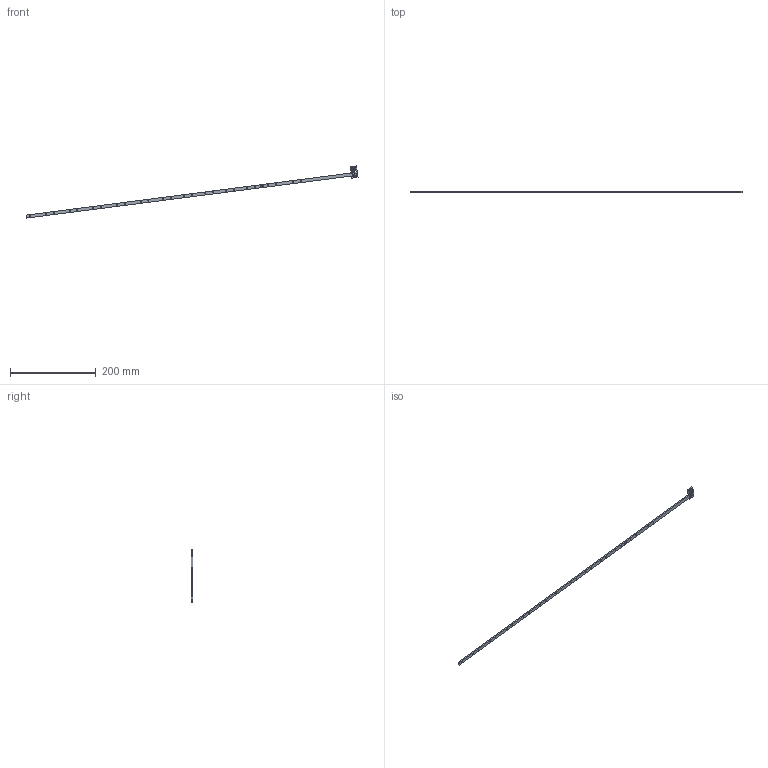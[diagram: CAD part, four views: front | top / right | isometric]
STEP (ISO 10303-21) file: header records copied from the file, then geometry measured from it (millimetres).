
FILE_DESCRIPTION((''),'2;1');
FILE_NAME('0000203984','2024-02-23T16:48:54',('Wyndorps'),(''),'CREO PARAMETRIC BY PTC INC, 2022484','CREO PARAMETRIC BY PTC INC, 2022484','');
FILE_SCHEMA(('CONFIG_CONTROL_DESIGN'));
Length unit declared in the file: millimetre
Products named in the file (1): 0000203984
Bounding box: 775.72 x 3 x 121.98 mm (x, y, z)
Volume: 16513.1 mm3; surface area: 17012.3 mm2
Topology: 1 solids, 1 shells, 156 faces, 462 edges, 308 vertices
Faces by surface type: plane 82, cylinder 50, extrusion 24
Entity records: 5517 total; most frequent: CARTESIAN_POINT 1155, ORIENTED_EDGE 924, DIRECTION 802, EDGE_CURVE 462, VECTOR 338, LINE 314, VERTEX_POINT 308, AXIS2_PLACEMENT_3D 232
